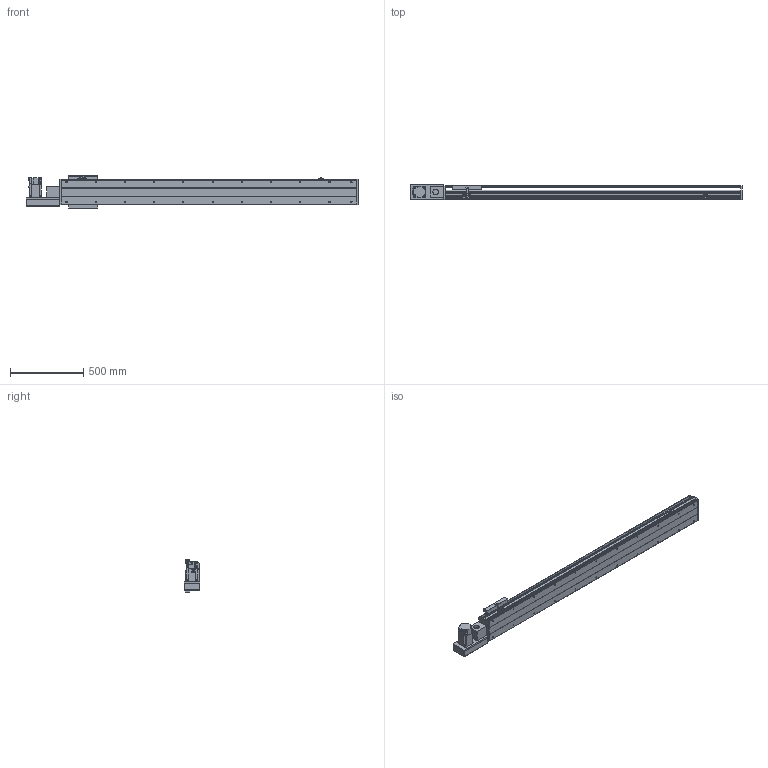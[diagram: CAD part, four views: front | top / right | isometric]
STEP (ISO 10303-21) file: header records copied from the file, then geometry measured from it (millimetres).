
FILE_DESCRIPTION(/* description */ ('STEP AP214'),/* implementation_level */ '2;1');
FILE_NAME(/* name */ 'PBS200-P40-S1650-L-T75-C1-N(0)',/* time_stamp */ '2022-06-11T07:49:29+02:00',/* author */ ('License CC BY-ND 4.0'),/* organization */ ('CADENAS'),/* preprocessor_version */ 'ST-DEVELOPER v18.102',/* originating_system */ 'PARTsolutions',/* authorisation */ ' ');
FILE_SCHEMA (('AUTOMOTIVE_DESIGN {1 0 10303 214 3 1 1}'));
Length unit declared in the file: millimetre
Products named in the file (7): PBS200-P40-S1650-L-T75-C1-N(0); PBS200_sensor; PBS200_plant; PBS200_sliser; T75-p1; PBS200T-L_motors; PBS200-S1650()_body
Assembly tree (8 placements, depth 2):
  PBS200-P40-S1650-L-T75-C1-N(0)
    PBS200_sensor  x3
    PBS200_plant
    PBS200_sliser
    T75-p1
    PBS200T-L_motors
    PBS200-S1650()_body
Bounding box: 2272 x 109 x 221 mm (x, y, z)
Volume: 15296282.8 mm3; surface area: 2459424.6 mm2
Topology: 8 solids, 8 shells, 938 faces, 2404 edges, 1566 vertices
Faces by surface type: plane 580, cylinder 304, cone 54
Full cylindrical faces by diameter (mm): 2.459 x6, 3.242 x4, 4.5 x6, 4.917 x4, 5 x6, 6 x7, 6.6 x8, 6.647 x26, 8 x6, 10 x4, 12 x8, 38 x2, 40 x1, 70 x1
Entity records: 24941 total; most frequent: DIRECTION 4399, CARTESIAN_POINT 4246, ORIENTED_EDGE 4018, EDGE_CURVE 2009, AXIS2_PLACEMENT_3D 1543, VERTEX_POINT 1390, LINE 1313, VECTOR 1313
